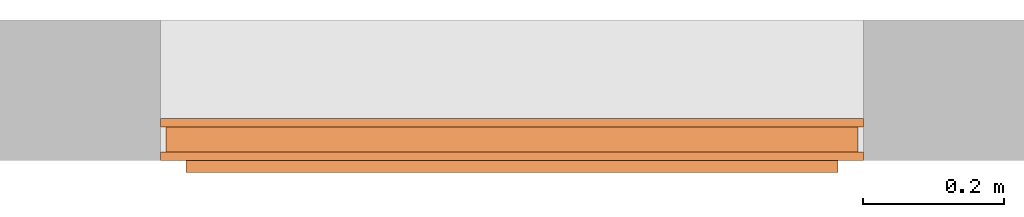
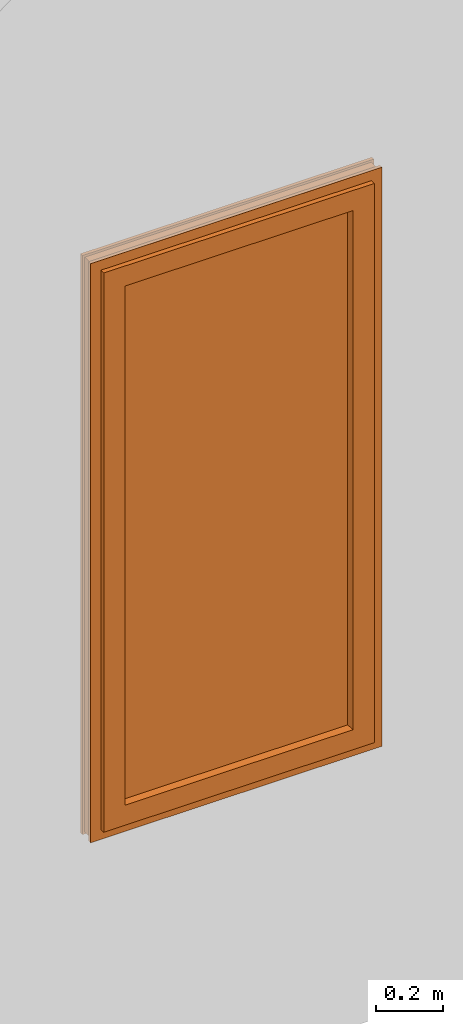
# One storey, part 2 of 2: 1 proxy.
"""IFC2X3 building model written with IfcOpenShell, lengths in millimetres."""

from ifc_helpers import new_model, entity, si_unit, converted_unit, derived_unit, direction, frame, origin, place, context, subcontext, project, spatial, faceted_brep, source, transform, mapped, material, material_list, type_object, type_shapes, element, save


model = new_model("IFC2X3")

# Units and contexts
model_context = context("Model", 3, precision=0.01, world=origin(), true_north=direction((6.12303176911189e-17, 1.0)))
body_context = subcontext(model_context, "Body", "Model", "MODEL_VIEW")
ifc_project = project(units=[si_unit("LENGTHUNIT", "METRE", prefix="MILLI"), si_unit("AREAUNIT", "SQUARE_METRE"), si_unit("VOLUMEUNIT", "CUBIC_METRE"), converted_unit("PLANEANGLEUNIT", "DEGREE", entity("IfcRatioMeasure", 0.0174532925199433), si_unit("PLANEANGLEUNIT", "RADIAN"), dimensions=[0, 0, 0, 0, 0, 0, 0]), si_unit("MASSUNIT", "GRAM", prefix="KILO"), derived_unit("MASSDENSITYUNIT", [(si_unit("MASSUNIT", "GRAM", prefix="KILO"), 1), (si_unit("LENGTHUNIT", "METRE"), -3)]), si_unit("TIMEUNIT", "SECOND"), si_unit("FREQUENCYUNIT", "HERTZ"), si_unit("THERMODYNAMICTEMPERATUREUNIT", "DEGREE_CELSIUS"), derived_unit("THERMALTRANSMITTANCEUNIT", [(si_unit("MASSUNIT", "GRAM", prefix="KILO"), 1), (si_unit("THERMODYNAMICTEMPERATUREUNIT", "KELVIN"), -1), (si_unit("TIMEUNIT", "SECOND"), -3)]), derived_unit("VOLUMETRICFLOWRATEUNIT", [(si_unit("LENGTHUNIT", "METRE"), 3), (si_unit("TIMEUNIT", "SECOND"), -1)]), si_unit("ELECTRICCURRENTUNIT", "AMPERE"), si_unit("ELECTRICVOLTAGEUNIT", "VOLT"), si_unit("POWERUNIT", "WATT"), si_unit("FORCEUNIT", "NEWTON", prefix="KILO"), si_unit("ILLUMINANCEUNIT", "LUX"), si_unit("LUMINOUSFLUXUNIT", "LUMEN"), si_unit("LUMINOUSINTENSITYUNIT", "CANDELA"), derived_unit("USERDEFINED", [(si_unit("MASSUNIT", "GRAM", prefix="KILO"), -1), (si_unit("LENGTHUNIT", "METRE"), -2), (si_unit("TIMEUNIT", "SECOND"), 3), (si_unit("LUMINOUSFLUXUNIT", "LUMEN"), 1)]), derived_unit("LINEARVELOCITYUNIT", [(si_unit("LENGTHUNIT", "METRE"), 1), (si_unit("TIMEUNIT", "SECOND"), -1)]), si_unit("PRESSUREUNIT", "PASCAL"), derived_unit("USERDEFINED", [(si_unit("LENGTHUNIT", "METRE"), -2), (si_unit("MASSUNIT", "GRAM", prefix="KILO"), 1), (si_unit("TIMEUNIT", "SECOND"), -2)])], contexts=[model_context])

# Site, building, storey
site_placement = place(None, origin())
site = spatial("IfcSite", under=ifc_project, at=site_placement, Name="Default", CompositionType="ELEMENT")
building_placement = place(site_placement, origin())
building = spatial("IfcBuilding", under=site, at=building_placement, CompositionType="ELEMENT")
storey_placement = place(building_placement, origin())
storey = spatial("IfcBuildingStorey", under=building, at=storey_placement, Name="Nivel 1", CompositionType="ELEMENT", Elevation=0.0)

# Proxy
ifc_material_1 = material(Name="RAU-PVC")
ifc_material_2 = material(Name="Glass")
ifc_material_list_1 = material_list([ifc_material_1, ifc_material_2])
ifc_material_list_2 = material_list([ifc_material_1, ifc_material_2])
building_element_proxy_type = type_object("IfcBuildingElementProxyType", Name="7.1 REH_ED-60 H T94", material=ifc_material_list_2)
shared_shape = source(origin(), body_context, "Body", "Brep", [
    faceted_brep([(964.000685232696, 77.0, 2064.00068523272), (964.000685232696, 60.0, 2064.00068523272), (964.000685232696, 60.0, 35.9993147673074), (964.000685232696, 77.0, 35.9993147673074), (885.325009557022, 55.0, 1985.32500955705), (891.270955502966, 77.0, 1991.27095550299), (891.270955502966, 77.0, 108.729044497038), (885.325009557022, 55.0, 114.674990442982), (904.030685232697, 36.0, 2004.03068523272), (904.030685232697, 55.0, 2004.03068523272), (904.030685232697, 55.0, 95.9693147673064), (904.030685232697, 36.0, 95.9693147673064), (887.350050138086, 17.0, 1987.35005013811), (882.259015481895, 36.0, 1982.25901548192), (882.259015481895, 36.0, 117.740984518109), (887.350050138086, 17.0, 112.649949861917), (944.000685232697, 60.0, 2044.00068523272), (944.000685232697, 17.0, 2044.00068523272), (944.000685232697, 17.0, 55.9993147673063), (944.000685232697, 60.0, 55.9993147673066), (35.9993147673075, 60.0, 35.9993147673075), (35.9993147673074, 77.0, 35.9993147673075), (108.729044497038, 77.0, 108.729044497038), (114.674990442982, 55.0, 114.674990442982), (95.9693147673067, 55.0, 95.9693147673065), (95.9693147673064, 36.0, 95.9693147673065), (117.740984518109, 36.0, 117.740984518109), (112.649949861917, 17.0, 112.649949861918), (55.9993147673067, 17.0, 55.9993147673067), (55.9993147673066, 60.0, 55.9993147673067), (35.9993147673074, 60.0, 2064.00068523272), (35.9993147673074, 77.0, 2064.00068523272), (108.729044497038, 77.0, 1991.27095550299), (114.674990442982, 55.0, 1985.32500955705), (95.9693147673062, 55.0, 2004.03068523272), (95.9693147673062, 36.0, 2004.03068523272), (117.740984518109, 36.0, 1982.25901548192), (112.649949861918, 17.0, 1987.35005013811), (55.9993147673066, 17.0, 2044.00068523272), (55.9993147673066, 60.0, 2044.00068523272)], [[[0, 1, 2, 3]], [[4, 5, 6, 7]], [[8, 9, 10, 11]], [[12, 13, 14, 15]], [[16, 17, 18, 19]], [[3, 2, 20, 21]], [[7, 6, 22, 23]], [[11, 10, 24, 25]], [[15, 14, 26, 27]], [[19, 18, 28, 29]], [[21, 20, 30, 31]], [[23, 22, 32, 33]], [[25, 24, 34, 35]], [[27, 26, 36, 37]], [[29, 28, 38, 39]], [[31, 30, 1, 0]], [[3, 21, 31, 0], [5, 32, 22, 6]], [[33, 32, 5, 4]], [[7, 23, 33, 4], [9, 34, 24, 10]], [[35, 34, 9, 8]], [[11, 25, 35, 8], [13, 36, 26, 14]], [[37, 36, 13, 12]], [[15, 27, 37, 12], [17, 38, 28, 18]], [[39, 38, 17, 16]], [[19, 29, 39, 16], [1, 30, 20, 2]]], outer=[[True], [True], [True], [True], [True], [True], [True], [True], [True], [True], [True], [True], [True], [True], [True], [True], [True, False], [True], [False, True], [True], [True, False], [True], [False, True], [True], [False, True]]),
    faceted_brep([(60.0, 29.9689840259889, 2040.0), (60.0, 29.9689840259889, 60.0), (940.0, 29.9689840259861, 60.0), (940.0, 29.9689840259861, 2040.0), (60.0, 44.9689840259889, 2040.0), (940.0, 44.9689840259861, 2040.0), (940.0, 44.9689840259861, 60.0), (60.0, 44.9689840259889, 60.0)], [[[0, 1, 2, 3]], [[4, 5, 6, 7]], [[5, 4, 0, 3]], [[6, 5, 3, 2]], [[7, 6, 2, 1]], [[4, 7, 1, 0]]]),
    faceted_brep([(54.0, 12.0, 54.0), (54.0, 0.0, 54.0), (946.0, 0.0, 54.0), (946.0, 12.0, 54.0), (27.798145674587, 48.0, 27.7981456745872), (30.0, 12.0, 30.0), (970.0, 12.0, 30.0), (972.201854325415, 48.0, 27.7981456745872), (54.0, 60.0, 54.0), (54.0, 48.0, 54.0), (946.0, 48.0, 54.0), (946.0, 60.0, 54.0), (0.0, 48.0, 0.0), (0.0, 60.0, 0.0), (1000.0, 60.0, 0.0), (1000.0, 48.0, 0.0), (8.0, 12.0, 8.0), (8.0, 48.0, 8.0), (992.0, 48.0, 8.0), (992.0, 12.0, 8.0), (0.0, 0.0, 0.0), (0.0, 12.0, 0.0), (1000.0, 12.0, 0.0), (1000.0, 0.0, 0.0), (946.0, 0.0, 2046.0), (946.0, 12.0, 2046.0), (970.0, 12.0, 2070.0), (972.201854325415, 48.0, 2072.20185432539), (946.0, 48.0, 2046.0), (946.0, 60.0, 2046.0), (1000.0, 60.0, 2100.0), (1000.0, 48.0, 2100.0), (992.0, 48.0, 2092.0), (992.0, 12.0, 2092.0), (1000.0, 12.0, 2100.0), (1000.0, 0.0, 2100.0), (54.0, 0.0, 2046.0), (54.0, 12.0, 2046.0), (30.0, 12.0, 2070.0), (27.7981456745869, 48.0, 2072.20185432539), (54.0, 48.0, 2046.0), (54.0, 60.0, 2046.0), (0.0, 60.0, 2100.0), (0.0, 48.0, 2100.0), (8.0, 48.0, 2092.0), (8.0, 12.0, 2092.0), (0.0, 12.0, 2100.0), (0.0, 0.0, 2100.0)], [[[0, 1, 2, 3]], [[4, 5, 6, 7]], [[8, 9, 10, 11]], [[12, 13, 14, 15]], [[16, 17, 18, 19]], [[20, 21, 22, 23]], [[3, 2, 24, 25]], [[7, 6, 26, 27]], [[11, 10, 28, 29]], [[15, 14, 30, 31]], [[19, 18, 32, 33]], [[23, 22, 34, 35]], [[25, 24, 36, 37]], [[27, 26, 38, 39]], [[29, 28, 40, 41]], [[31, 30, 42, 43]], [[33, 32, 44, 45]], [[35, 34, 46, 47]], [[37, 36, 1, 0]], [[3, 25, 37, 0], [5, 38, 26, 6]], [[39, 38, 5, 4]], [[7, 27, 39, 4], [9, 40, 28, 10]], [[41, 40, 9, 8]], [[11, 29, 41, 8], [13, 42, 30, 14]], [[43, 42, 13, 12]], [[15, 31, 43, 12], [17, 44, 32, 18]], [[45, 44, 17, 16]], [[19, 33, 45, 16], [21, 46, 34, 22]], [[47, 46, 21, 20]], [[23, 35, 47, 20], [1, 36, 24, 2]]], outer=[[True], [True], [True], [True], [True], [True], [True], [True], [True], [True], [True], [True], [True], [True], [True], [True], [True], [True], [True], [False, True], [True], [True, False], [True], [False, True], [True], [True, False], [True], [False, True], [True], [True, False]]),
])
type_shapes(building_element_proxy_type, [shared_shape])
proxy_placement = place(storey_placement, frame((576.266424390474, 2841.09928072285, 980.604819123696), z_axis=(0.0, 0.0, 1.0), x_axis=(-1.0, 0.0, 0.0)))
element("IfcBuildingElementProxy", 1, at=proxy_placement, inside=storey, type_object=building_element_proxy_type, material=ifc_material_list_1, Name="7.1 REH_ED-60 H T94 :7.1 REH_ED-60 H T94", ObjectType="7.1 REH_ED-60 H T94", context=body_context, shape_type="MappedRepresentation", body=[
    mapped(shared_shape, transform((0.0, 0.0, 0.0), scale=1.0)),
])

save(model, "model.ifc")
